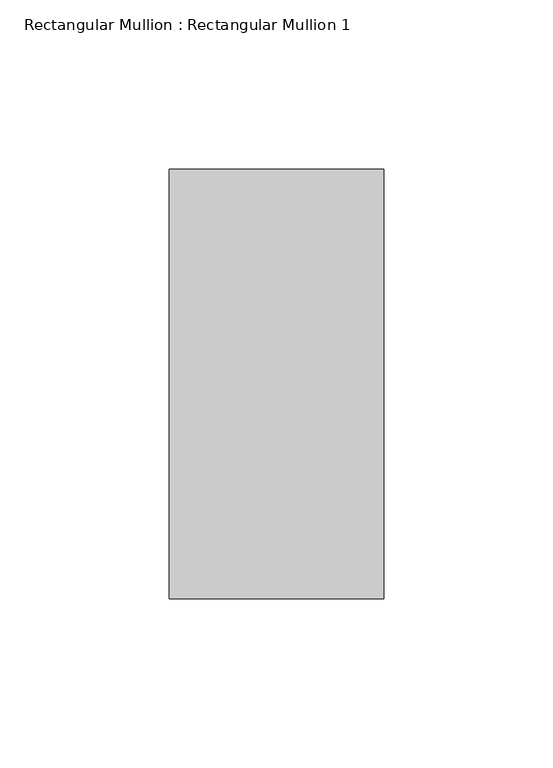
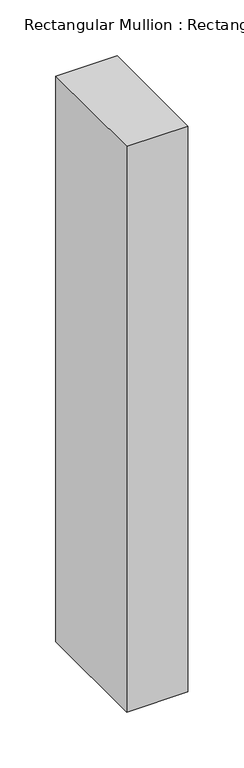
"""IFC4 building model written with IfcOpenShell, lengths in millimetres: member geometry, Rectangular Mullion : Rectangular Mullion 1."""

from ifc_helpers import new_model, si_unit, frame, origin, place, context, project, spatial, polyline, outline, extrude, source, transform, mapped, element, save


def rectangular_mullion_rectangular_mullion_1_99cf9c75(model_context):
    return source(origin(), model_context, "Body", "SweptSolid", [
        extrude(outline(polyline([(31.75, 63.5), (31.75, -63.5), (-31.75, -63.5), (-31.75, 63.5), (31.75, 63.5)])), frame((0.0, 0.0, -619.6524417), z_axis=(0.0, 0.0, 1.0), x_axis=(1.0, 0.0, 0.0)), (0.0, 0.0, 1.0), 619.6524417),
    ])


if __name__ == "__main__":
    model = new_model("IFC4")
    model_context = context("Model", 3, world=origin())
    ifc_project = project(units=[si_unit("LENGTHUNIT", "METRE", prefix="MILLI")], contexts=[model_context])
    site = spatial("IfcSite", under=ifc_project)
    building = spatial("IfcBuilding", under=site)
    placement = place(None, origin())
    rectangular_mullion_rectangular_mullion_1_shape = rectangular_mullion_rectangular_mullion_1_99cf9c75(model_context)
    element("IfcMember", 1, ObjectType="Rectangular Mullion : Rectangular Mullion 1", at=placement, inside=building, context=model_context, shape_type="MappedRepresentation", body=[
        mapped(rectangular_mullion_rectangular_mullion_1_shape, transform((0.0, 0.0, 0.0), x_axis=(1.0, 0.0, 0.0), y_axis=(0.0, 1.0, 0.0), z_axis=(0.0, 0.0, 1.0))),
    ])
    save(model, "model.ifc")
